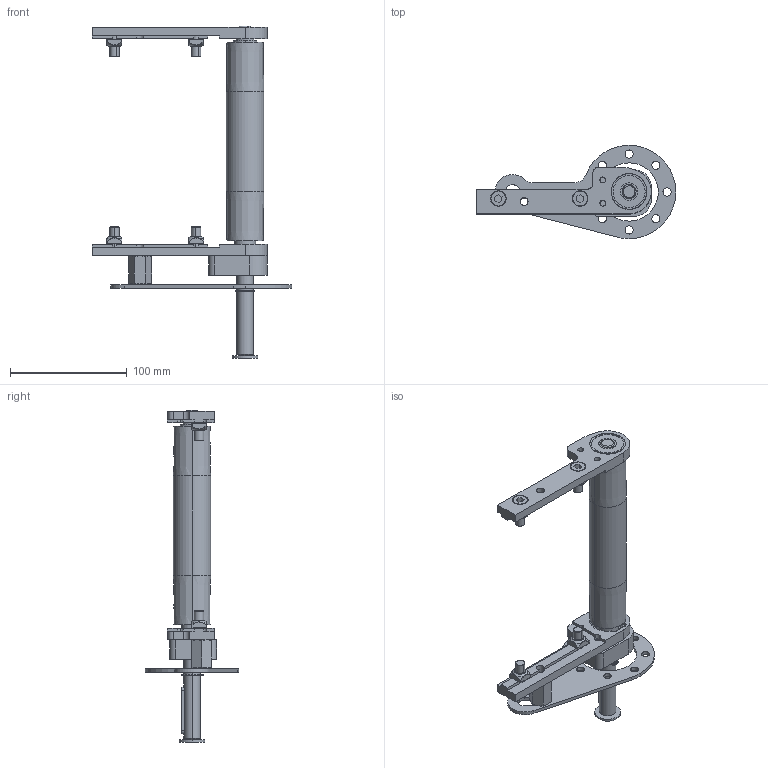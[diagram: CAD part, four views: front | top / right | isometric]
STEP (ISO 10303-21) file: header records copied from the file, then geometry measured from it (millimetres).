
FILE_DESCRIPTION (( 'STEP AP203' ), '1' );
FILE_NAME ('084.030.KD.30.150.STEP', '2019-07-29T09:44:10', ( '' ), ( '' ), 'SwSTEP 2.0', 'SolidWorks 2018', '' );
FILE_SCHEMA (( 'CONFIG_CONTROL_DESIGN' ));
Length unit declared in the file: millimetre
Products named in the file (15): 084.801.027 dx; 084.801.027 sx; Circlip DIN 471 - 14 x 1_Circlip DIN 471 - 14 x 1; 084.302.000 DADI ALUSIC 13x13-1_084.302.004; 084.802.027; 084.030.138; 084.030.KD.30.150; ISO 4762 M6 x 16 --- 16S_ISO 4762 M6 x 16 --- 16S; CUSCINETTI CB_CB 202; Washer ISO 7094 - 6_Washer ISO 7094 - 6; 62012RSBOMB_62012RSBOMB; 084.801.025; 084.807.005; 084.301.000 VITI ALUSIC_084.301.003; CHIAVETTE_A 5x5x40 UNI 6604-69
Assembly tree (21 placements, depth 2):
  084.030.KD.30.150
    084.807.005
    084.030.138
    084.802.027
    084.801.027 dx
    084.801.027 sx
    084.301.000 VITI ALUSIC_084.301.003  x4
    084.302.000 DADI ALUSIC 13x13-1_084.302.004  x4
    084.801.025
    Circlip DIN 471 - 14 x 1_Circlip DIN 471 - 14 x 1
    CHIAVETTE_A 5x5x40 UNI 6604-69
    CUSCINETTI CB_CB 202
    62012RSBOMB_62012RSBOMB
    Washer ISO 7094 - 6_Washer ISO 7094 - 6
    ISO 4762 M6 x 16 --- 16S_ISO 4762 M6 x 16 --- 16S  x2
Bounding box: 171 x 80 x 284.5 mm (x, y, z)
Volume: 263007.9 mm3; surface area: 86078 mm2
Topology: 21 solids, 21 shells, 711 faces, 1824 edges, 1169 vertices
Faces by surface type: cylinder 264, plane 223, cone 152, torus 40, bspline 20, sphere 12
Entity records: 17337 total; most frequent: CARTESIAN_POINT 3354, DIRECTION 2758, ORIENTED_EDGE 2452, EDGE_CURVE 1226, AXIS2_PLACEMENT_3D 1112, VERTEX_POINT 794, CIRCLE 616, EDGE_LOOP 564
